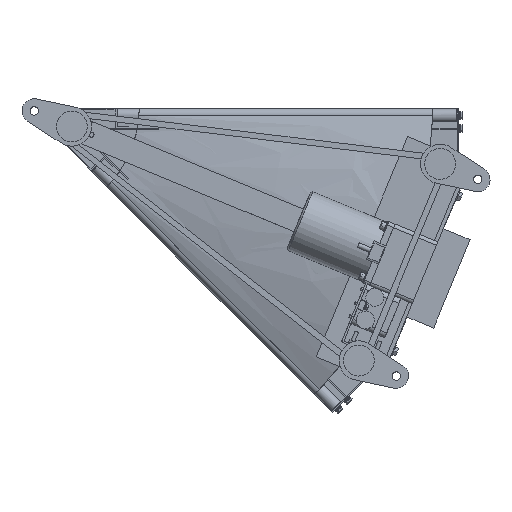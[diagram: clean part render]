
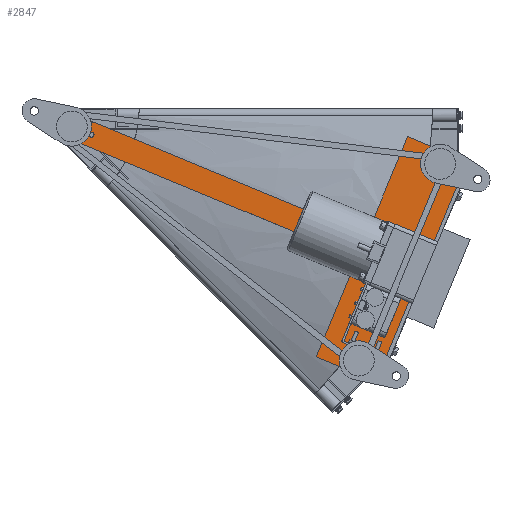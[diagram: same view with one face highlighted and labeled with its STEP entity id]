
A CAD part, front view. The second image highlights one B-rep face of the part: STEP entity #2847.
In plain terms, the highlighted planar face has unit normal (0, -1, 0).
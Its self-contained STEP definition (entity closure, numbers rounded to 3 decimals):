
#2847=ADVANCED_FACE('',(#6735),#6734,.T.);
#6734=PLANE('',#19001);
#6735=FACE_OUTER_BOUND('',#19002,.T.);
#18998=CARTESIAN_POINT('',(37.463,-167.5,10.581));
#18999=DIRECTION('',(0.,-1.,0.));
#19000=DIRECTION('',(-0.078,0.,-0.997));
#19001=AXIS2_PLACEMENT_3D('',#18998,#18999,#19000);
#19002=EDGE_LOOP('',(#26294,#26295,#26296,#26297,#26298,#26299,#26300,#26301,#26302,#26303));
#26294=ORIENTED_EDGE('',*,*,#31146,.F.);
#26295=ORIENTED_EDGE('',*,*,#31151,.F.);
#26296=ORIENTED_EDGE('',*,*,#31133,.F.);
#26297=ORIENTED_EDGE('',*,*,#31129,.F.);
#26298=ORIENTED_EDGE('',*,*,#31136,.F.);
#26299=ORIENTED_EDGE('',*,*,#31152,.F.);
#26300=ORIENTED_EDGE('',*,*,#31153,.F.);
#26301=ORIENTED_EDGE('',*,*,#31154,.F.);
#26302=ORIENTED_EDGE('',*,*,#31155,.F.);
#26303=ORIENTED_EDGE('',*,*,#31156,.F.);
#31129=EDGE_CURVE('',#37741,#37742,#37743,.T.);
#31133=EDGE_CURVE('',#37742,#37769,#37770,.T.);
#31136=EDGE_CURVE('',#37789,#37741,#37790,.T.);
#31146=EDGE_CURVE('',#37857,#37858,#37859,.T.);
#31151=EDGE_CURVE('',#37769,#37857,#37891,.T.);
#31152=EDGE_CURVE('',#37897,#37789,#37898,.T.);
#31153=EDGE_CURVE('',#37904,#37897,#37905,.T.);
#31154=EDGE_CURVE('',#37911,#37904,#37912,.T.);
#31155=EDGE_CURVE('',#37918,#37911,#37919,.T.);
#31156=EDGE_CURVE('',#37858,#37918,#37925,.T.);
#37741=VERTEX_POINT('',#55080);
#37742=VERTEX_POINT('',#55081);
#37743=LINE('',#55082,#55083);
#37769=VERTEX_POINT('',#55096);
#37770=LINE('',#55097,#55098);
#37789=VERTEX_POINT('',#55107);
#37790=LINE('',#55108,#55109);
#37857=VERTEX_POINT('',#55145);
#37858=VERTEX_POINT('',#55146);
#37859=LINE('',#55147,#55148);
#37891=LINE('',#55164,#55165);
#37897=VERTEX_POINT('',#55167);
#37898=LINE('',#55168,#55169);
#37904=VERTEX_POINT('',#55171);
#37905=LINE('',#55172,#55173);
#37911=VERTEX_POINT('',#55175);
#37912=LINE('',#55176,#55177);
#37918=VERTEX_POINT('',#55179);
#37919=LINE('',#55180,#55181);
#37925=LINE('',#55183,#55184);
#55080=CARTESIAN_POINT('',(550.589,-167.5,-390.42));
#55081=CARTESIAN_POINT('',(518.717,-167.5,-415.102));
#55082=CARTESIAN_POINT('',(550.589,-167.5,-390.42));
#55083=VECTOR('',#55084,40.311);
#55084=DIRECTION('',(-0.791,0.,-0.612));
#55096=CARTESIAN_POINT('',(444.807,-167.5,-384.488));
#55097=CARTESIAN_POINT('',(518.717,-167.5,-415.102));
#55098=VECTOR('',#55099,80.);
#55099=DIRECTION('',(-0.924,0.,0.383));
#55107=CARTESIAN_POINT('',(665.394,-167.5,-113.256));
#55108=CARTESIAN_POINT('',(665.394,-167.5,-113.256));
#55109=VECTOR('',#55110,300.);
#55110=DIRECTION('',(-0.383,0.,-0.924));
#55145=CARTESIAN_POINT('',(508.332,-167.5,-231.124));
#55146=CARTESIAN_POINT('',(43.621,-167.5,-38.634));
#55147=CARTESIAN_POINT('',(508.332,-167.5,-231.124));
#55148=VECTOR('',#55149,503.);
#55149=DIRECTION('',(-0.924,0.,0.383));
#55164=CARTESIAN_POINT('',(444.807,-167.5,-384.488));
#55165=VECTOR('',#55166,166.);
#55166=DIRECTION('',(0.383,0.,0.924));
#55167=CARTESIAN_POINT('',(660.31,-167.5,-73.267));
#55168=CARTESIAN_POINT('',(660.31,-167.5,-73.267));
#55169=VECTOR('',#55170,40.311);
#55170=DIRECTION('',(0.126,0.,-0.992));
#55171=CARTESIAN_POINT('',(586.4,-167.5,-42.652));
#55172=CARTESIAN_POINT('',(586.4,-167.5,-42.652));
#55173=VECTOR('',#55174,80.);
#55174=DIRECTION('',(0.924,0.,-0.383));
#55175=CARTESIAN_POINT('',(522.874,-167.5,-196.016));
#55176=CARTESIAN_POINT('',(522.874,-167.5,-196.016));
#55177=VECTOR('',#55178,166.);
#55178=DIRECTION('',(0.383,0.,0.924));
#55179=CARTESIAN_POINT('',(58.163,-167.5,-3.526));
#55180=CARTESIAN_POINT('',(58.163,-167.5,-3.526));
#55181=VECTOR('',#55182,503.);
#55182=DIRECTION('',(0.924,0.,-0.383));
#55183=CARTESIAN_POINT('',(43.621,-167.5,-38.634));
#55184=VECTOR('',#55185,38.);
#55185=DIRECTION('',(0.383,0.,0.924));
